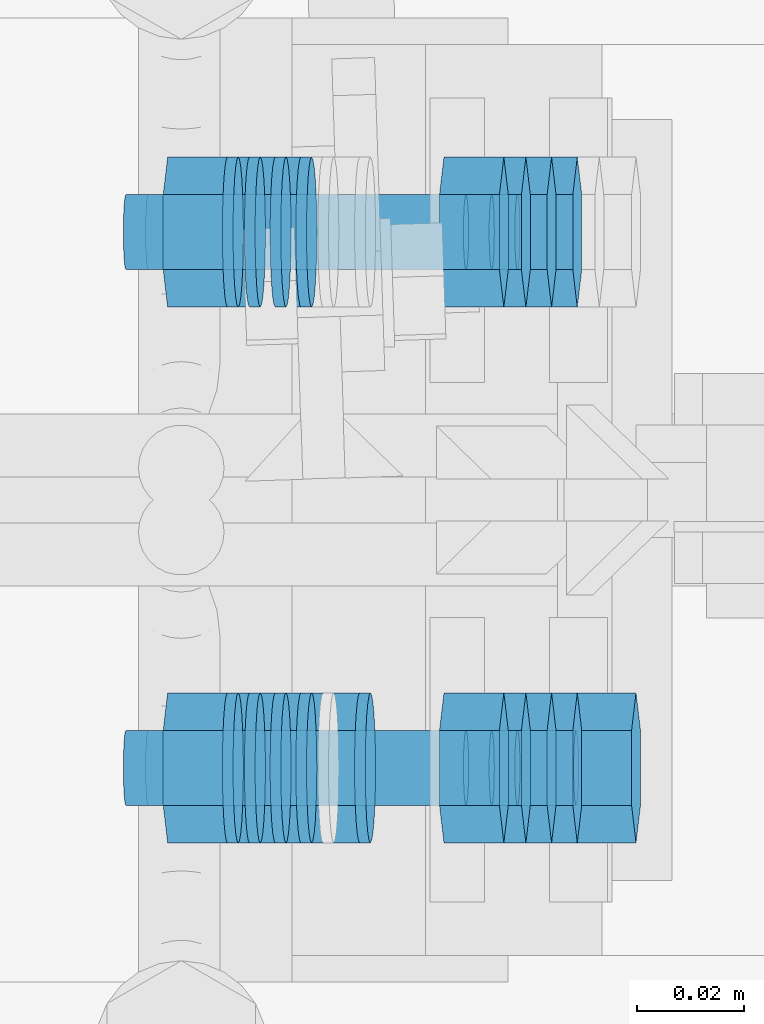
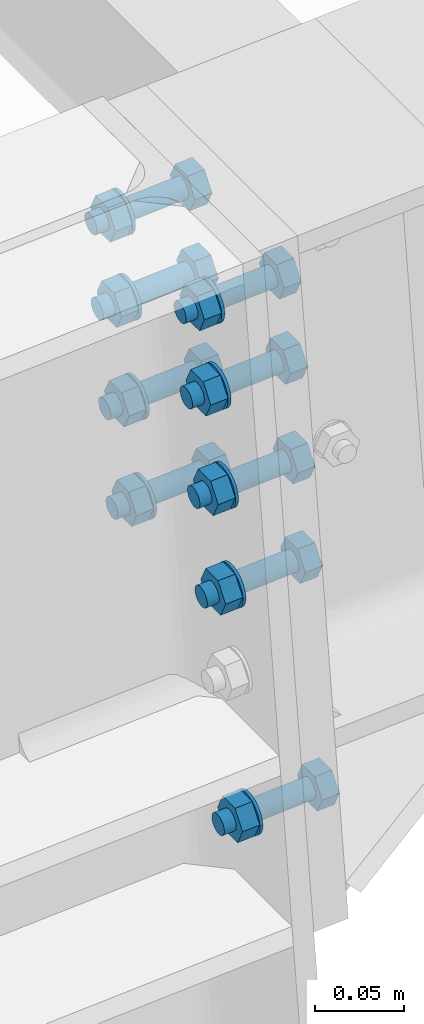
# One storey, part 28 of 72: 36 mechanical fasteners.
"""IFC4 building model written with IfcOpenShell, lengths in metres."""

from ifc_helpers import new_model, si_unit, frame, origin_with_axes, place, context, project, spatial, polyline, outline, extrude, type_object, element, save


model = new_model("IFC4")

# Units and contexts
model_context = context("Model", 3, precision=1e-05, world=origin_with_axes())
ifc_project = project(units=[si_unit("LENGTHUNIT", "METRE"), si_unit("AREAUNIT", "SQUARE_METRE"), si_unit("VOLUMEUNIT", "CUBIC_METRE"), si_unit("MASSUNIT", "GRAM", prefix="KILO"), si_unit("TIMEUNIT", "SECOND"), si_unit("PLANEANGLEUNIT", "RADIAN"), si_unit("SOLIDANGLEUNIT", "STERADIAN"), si_unit("THERMODYNAMICTEMPERATUREUNIT", "DEGREE_CELSIUS")], contexts=[model_context])

# Site, building, storey
placement_1 = place(None, origin_with_axes())
site = spatial("IfcSite", under=ifc_project, at=placement_1, Name="Italia", CompositionType="ELEMENT")
building = spatial("IfcBuilding", under=site, at=placement_1, Name="Pensilina", CompositionType="ELEMENT")
storey = spatial("IfcBuildingStorey", under=building, at=placement_1, Name="Storey 0", CompositionType="ELEMENT", Elevation=0.0)

# Mechanical fasteners
mechanical_fastener_type_1 = type_object("IfcMechanicalFastenerType", Name="Collegamento 0101_0201", PredefinedType="BOLT")
placement_2 = place(placement_1, origin_with_axes())
mechanical_fastener_1_placement = place(placement_2, origin_with_axes())
element("IfcMechanicalFastener", 1, at=mechanical_fastener_1_placement, inside=storey, type_object=mechanical_fastener_type_1, Name="Collegamento 0101_0201", NominalDiameter=0.0139999, context=model_context, shape_type="SweptSolid", body=[
    extrude(outline(polyline([(0.0, 0.0, 0.0), (-0.014, 0.0, 0.0), (-0.021, 0.0121243, 0.0), (-0.014, 0.0242488, 0.0), (0.0, 0.0242488, 0.0), (0.007, 0.0121243, 0.0), (0.0, 0.0, 0.0)])), frame((0.919629, -0.043, 3.5672), z_axis=(0.997649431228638, 0.0, 0.068524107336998), x_axis=(0.0, 1.0, 0.0)), (0.0, 0.0, 1.0), 0.0112),
])
mechanical_fastener_type_2 = type_object("IfcMechanicalFastenerType", Name="Collegamento 0101_0201", PredefinedType="BOLT")
mechanical_fastener_2_placement = place(placement_2, origin_with_axes())
element("IfcMechanicalFastener", 2, at=mechanical_fastener_2_placement, inside=storey, type_object=mechanical_fastener_type_2, Name="Collegamento 0101_0201", NominalDiameter=0.014, context=model_context, shape_type="SweptSolid", body=[
    extrude(outline(polyline([(0.0, 0.0, 0.0), (-0.000238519, -0.00181174, 0.0), (-0.000937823, -0.00349998, 0.0), (-0.00205025, -0.00494981, 0.0), (-0.0035, -0.00606227, 0.0), (-0.00518827, -0.00676155, 0.0), (-0.007, -0.00699997, 0.0), (-0.00881173, -0.00676155, 0.0), (-0.0105, -0.00606227, 0.0), (-0.0119497, -0.00494981, 0.0), (-0.0130622, -0.00349998, 0.0), (-0.0137615, -0.00181174, 0.0), (-0.014, 0.0, 0.0), (-0.0137615, 0.00181174, 0.0), (-0.0130622, 0.00350022, 0.0), (-0.0119497, 0.00494981, 0.0), (-0.0105, 0.00606227, 0.0), (-0.00881173, 0.00676155, 0.0), (-0.007, 0.00699997, 0.0), (-0.00518827, 0.00676155, 0.0), (-0.0035, 0.00606227, 0.0), (-0.00205025, 0.00494981, 0.0), (-0.000937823, 0.00350022, 0.0), (-0.000238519, 0.00181174, 0.0), (0.0, 0.0, 0.0)])), frame((0.859438, -0.043, 3.57522), z_axis=(0.997648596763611, 0.0, 0.068536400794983), x_axis=(0.0, 1.0, 0.0)), (0.0, 0.0, 1.0), 0.0594999),
])
mechanical_fastener_type_3 = type_object("IfcMechanicalFastenerType", Name="Collegamento 0101_0201", PredefinedType="BOLT")
mechanical_fastener_3_placement = place(placement_2, origin_with_axes())
element("IfcMechanicalFastener", 3, at=mechanical_fastener_3_placement, inside=storey, type_object=mechanical_fastener_type_3, Name="Collegamento 0101_0201", NominalDiameter=0.0139999, context=model_context, shape_type="SweptSolid", body=[
    extrude(outline(polyline([(0.0, 0.0, 0.0), (-0.014, 0.0, 0.0), (-0.021, 0.0121243, 0.0), (-0.014, 0.0242486, 0.0), (0.0, 0.0242486, 0.0), (0.007, 0.0121243, 0.0), (0.0, 0.0, 0.0)])), frame((0.868051, -0.043, 3.56365), z_axis=(0.997648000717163, 0.0, 0.068545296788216), x_axis=(0.0, 1.0, 0.0)), (0.0, 0.0, 1.0), 0.0112),
])
mechanical_fastener_type_4 = type_object("IfcMechanicalFastenerType", Name="Collegamento 0101_0201", PredefinedType="BOLT")
mechanical_fastener_4_placement = place(placement_2, origin_with_axes())
element("IfcMechanicalFastener", 4, at=mechanical_fastener_4_placement, inside=storey, type_object=mechanical_fastener_type_4, Name="Collegamento 0101_0201", NominalDiameter=0.028, context=model_context, shape_type="SweptSolid", body=[
    extrude(outline(polyline([(0.0, 0.0, 0.0), (-0.000477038, -0.00362349, 0.0), (-0.00187564, -0.00699997, 0.0), (-0.0041005, -0.00989962, 0.0), (-0.007, -0.0121245, 0.0), (-0.0103765, -0.0135229, 0.0), (-0.014, -0.0139999, 0.0), (-0.0176235, -0.0135229, 0.0), (-0.021, -0.0121245, 0.0), (-0.0238995, -0.00989962, 0.0), (-0.0261244, -0.00699997, 0.0), (-0.027523, -0.00362349, 0.0), (-0.028, 0.0, 0.0), (-0.027523, 0.00362349, 0.0), (-0.0261244, 0.00699997, 0.0), (-0.0238995, 0.00989962, 0.0), (-0.021, 0.0121245, 0.0), (-0.0176235, 0.0135229, 0.0), (-0.014, 0.0139999, 0.0), (-0.0103765, 0.0135229, 0.0), (-0.007, 0.0121245, 0.0), (-0.0041005, 0.00989962, 0.0), (-0.00187564, 0.00699997, 0.0), (-0.000477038, 0.00362349, 0.0), (0.0, 0.0, 0.0)])), frame((0.878394, -0.036, 3.57652), z_axis=(0.997648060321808, 0.0, 0.06854435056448), x_axis=(0.0, 1.0, 0.0)), (0.0, 0.0, 1.0), 0.00200003),
])
mechanical_fastener_type_5 = type_object("IfcMechanicalFastenerType", Name="Collegamento 0101_0201", PredefinedType="BOLT")
mechanical_fastener_5_placement = place(placement_2, origin_with_axes())
element("IfcMechanicalFastener", 5, at=mechanical_fastener_5_placement, inside=storey, type_object=mechanical_fastener_type_5, Name="Collegamento 0101_0201", NominalDiameter=0.0139999, context=model_context, shape_type="SweptSolid", body=[
    extrude(outline(polyline([(0.0, 0.0, 0.0), (-0.014, 0.0, 0.0), (-0.021, 0.0121243, 0.0), (-0.014, 0.0242488, 0.0), (0.0, 0.0242488, 0.0), (0.007, 0.0121243, 0.0), (0.0, 0.0, 0.0)])), frame((0.919629, 0.057, 3.5672), z_axis=(0.997649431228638, 0.0, 0.068524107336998), x_axis=(0.0, 1.0, 0.0)), (0.0, 0.0, 1.0), 0.0112),
])
mechanical_fastener_type_6 = type_object("IfcMechanicalFastenerType", Name="Collegamento 0101_0201", PredefinedType="BOLT")
mechanical_fastener_6_placement = place(placement_2, origin_with_axes())
element("IfcMechanicalFastener", 6, at=mechanical_fastener_6_placement, inside=storey, type_object=mechanical_fastener_type_6, Name="Collegamento 0101_0201", NominalDiameter=0.014, context=model_context, shape_type="SweptSolid", body=[
    extrude(outline(polyline([(0.0, 0.0, 0.0), (-0.000238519, -0.00181174, 0.0), (-0.000937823, -0.00349998, 0.0), (-0.00205025, -0.00494981, 0.0), (-0.0035, -0.00606227, 0.0), (-0.00518827, -0.00676155, 0.0), (-0.007, -0.00699997, 0.0), (-0.00881173, -0.00676155, 0.0), (-0.0105, -0.00606227, 0.0), (-0.0119497, -0.00494981, 0.0), (-0.0130622, -0.00349998, 0.0), (-0.0137615, -0.00181174, 0.0), (-0.014, 0.0, 0.0), (-0.0137615, 0.00181174, 0.0), (-0.0130622, 0.00350022, 0.0), (-0.0119497, 0.00494981, 0.0), (-0.0105, 0.00606227, 0.0), (-0.00881173, 0.00676155, 0.0), (-0.007, 0.00699997, 0.0), (-0.00518827, 0.00676155, 0.0), (-0.0035, 0.00606227, 0.0), (-0.00205025, 0.00494981, 0.0), (-0.000937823, 0.00350022, 0.0), (-0.000238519, 0.00181174, 0.0), (0.0, 0.0, 0.0)])), frame((0.859438, 0.057, 3.57522), z_axis=(0.997648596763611, 0.0, 0.068536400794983), x_axis=(0.0, 1.0, 0.0)), (0.0, 0.0, 1.0), 0.0594999),
])
mechanical_fastener_type_7 = type_object("IfcMechanicalFastenerType", Name="Collegamento 0101_0201", PredefinedType="BOLT")
mechanical_fastener_7_placement = place(placement_2, origin_with_axes())
element("IfcMechanicalFastener", 7, at=mechanical_fastener_7_placement, inside=storey, type_object=mechanical_fastener_type_7, Name="Collegamento 0101_0201", NominalDiameter=0.0139999, context=model_context, shape_type="SweptSolid", body=[
    extrude(outline(polyline([(0.0, 0.0, 0.0), (-0.014, 0.0, 0.0), (-0.021, 0.0121243, 0.0), (-0.014, 0.0242486, 0.0), (0.0, 0.0242486, 0.0), (0.007, 0.0121243, 0.0), (0.0, 0.0, 0.0)])), frame((0.868051, 0.057, 3.56365), z_axis=(0.997648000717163, 0.0, 0.068545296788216), x_axis=(0.0, 1.0, 0.0)), (0.0, 0.0, 1.0), 0.0112),
])
mechanical_fastener_type_8 = type_object("IfcMechanicalFastenerType", Name="Collegamento 0101_0201", PredefinedType="BOLT")
mechanical_fastener_8_placement = place(placement_2, origin_with_axes())
element("IfcMechanicalFastener", 8, at=mechanical_fastener_8_placement, inside=storey, type_object=mechanical_fastener_type_8, Name="Collegamento 0101_0201", NominalDiameter=0.028, context=model_context, shape_type="SweptSolid", body=[
    extrude(outline(polyline([(0.0, 0.0, 0.0), (-0.000477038, -0.00362349, 0.0), (-0.00187564, -0.00699997, 0.0), (-0.0041005, -0.00989962, 0.0), (-0.007, -0.0121245, 0.0), (-0.0103765, -0.0135229, 0.0), (-0.014, -0.0139999, 0.0), (-0.0176235, -0.0135229, 0.0), (-0.021, -0.0121245, 0.0), (-0.0238995, -0.00989962, 0.0), (-0.0261244, -0.00699997, 0.0), (-0.027523, -0.00362349, 0.0), (-0.028, 0.0, 0.0), (-0.027523, 0.00362349, 0.0), (-0.0261244, 0.00699997, 0.0), (-0.0238995, 0.00989962, 0.0), (-0.021, 0.0121245, 0.0), (-0.0176235, 0.0135229, 0.0), (-0.014, 0.0139999, 0.0), (-0.0103765, 0.0135229, 0.0), (-0.007, 0.0121245, 0.0), (-0.0041005, 0.00989962, 0.0), (-0.00187564, 0.00699997, 0.0), (-0.000477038, 0.00362349, 0.0), (0.0, 0.0, 0.0)])), frame((0.878394, 0.064, 3.57652), z_axis=(0.997648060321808, 0.0, 0.06854435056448), x_axis=(0.0, 1.0, 0.0)), (0.0, 0.0, 1.0), 0.00200003),
])
mechanical_fastener_type_9 = type_object("IfcMechanicalFastenerType", Name="Collegamento 0101_0201", PredefinedType="BOLT")
mechanical_fastener_9_placement = place(placement_2, origin_with_axes())
element("IfcMechanicalFastener", 9, at=mechanical_fastener_9_placement, inside=storey, type_object=mechanical_fastener_type_9, Name="Collegamento 0101_0201", NominalDiameter=0.014, context=model_context, shape_type="SweptSolid", body=[
    extrude(outline(polyline([(0.0, 0.0, 0.0), (-0.014, 0.0, 0.0), (-0.021, 0.0121243, 0.0), (-0.014, 0.0242488, 0.0), (0.0, 0.0242488, 0.0), (0.007, 0.0121243, 0.0), (0.0, 0.0, 0.0)])), frame((0.914832, -0.043, 3.63703), z_axis=(0.997648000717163, 0.0, 0.068545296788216), x_axis=(0.0, 1.0, 0.0)), (0.0, 0.0, 1.0), 0.0112),
])
mechanical_fastener_type_10 = type_object("IfcMechanicalFastenerType", Name="Collegamento 0101_0201", PredefinedType="BOLT")
mechanical_fastener_10_placement = place(placement_2, origin_with_axes())
element("IfcMechanicalFastener", 10, at=mechanical_fastener_10_placement, inside=storey, type_object=mechanical_fastener_type_10, Name="Collegamento 0101_0201", NominalDiameter=0.014, context=model_context, shape_type="SweptSolid", body=[
    extrude(outline(polyline([(0.0, 0.0, 0.0), (-0.000238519, -0.00181174, 0.0), (-0.000937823, -0.00350022, 0.0), (-0.00205025, -0.00494981, 0.0), (-0.0035, -0.00606227, 0.0), (-0.00518827, -0.00676155, 0.0), (-0.007, -0.00699997, 0.0), (-0.00881173, -0.00676155, 0.0), (-0.0105, -0.00606227, 0.0), (-0.0119497, -0.00494981, 0.0), (-0.0130622, -0.00350022, 0.0), (-0.0137615, -0.00181174, 0.0), (-0.014, 0.0, 0.0), (-0.0137615, 0.00181174, 0.0), (-0.0130622, 0.00349998, 0.0), (-0.0119497, 0.00494957, 0.0), (-0.0105, 0.00606203, 0.0), (-0.00881173, 0.00676131, 0.0), (-0.007, 0.00699997, 0.0), (-0.00518827, 0.00676131, 0.0), (-0.0035, 0.00606203, 0.0), (-0.00205025, 0.00494957, 0.0), (-0.000937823, 0.00349998, 0.0), (-0.000238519, 0.00181174, 0.0), (0.0, 0.0, 0.0)])), frame((0.85464, -0.043, 3.64505), z_axis=(0.997648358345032, 0.0, 0.068540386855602), x_axis=(0.0, 1.0, 0.0)), (0.0, 0.0, 1.0), 0.0595),
])
mechanical_fastener_type_11 = type_object("IfcMechanicalFastenerType", Name="Collegamento 0101_0201", PredefinedType="BOLT")
mechanical_fastener_11_placement = place(placement_2, origin_with_axes())
element("IfcMechanicalFastener", 11, at=mechanical_fastener_11_placement, inside=storey, type_object=mechanical_fastener_type_11, Name="Collegamento 0101_0201", NominalDiameter=0.0139999, context=model_context, shape_type="SweptSolid", body=[
    extrude(outline(polyline([(0.0, 0.0, 0.0), (-0.014, 0.0, 0.0), (-0.021, 0.0121243, 0.0), (-0.014, 0.0242486, 0.0), (0.0, 0.0242486, 0.0), (0.007, 0.0121243, 0.0), (0.0, 0.0, 0.0)])), frame((0.863253, -0.043, 3.63349), z_axis=(0.997649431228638, 0.0, 0.068524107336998), x_axis=(0.0, 1.0, 0.0)), (0.0, 0.0, 1.0), 0.0112),
])
mechanical_fastener_type_12 = type_object("IfcMechanicalFastenerType", Name="Collegamento 0101_0201", PredefinedType="BOLT")
mechanical_fastener_12_placement = place(placement_2, origin_with_axes())
element("IfcMechanicalFastener", 12, at=mechanical_fastener_12_placement, inside=storey, type_object=mechanical_fastener_type_12, Name="Collegamento 0101_0201", NominalDiameter=0.028, context=model_context, shape_type="SweptSolid", body=[
    extrude(outline(polyline([(0.0, 0.0, 0.0), (-0.000477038, -0.00362349, 0.0), (-0.00187564, -0.00699997, 0.0), (-0.0041005, -0.00989938, 0.0), (-0.007, -0.0121243, 0.0), (-0.0103765, -0.0135229, 0.0), (-0.014, -0.0139999, 0.0), (-0.0176235, -0.0135229, 0.0), (-0.021, -0.0121243, 0.0), (-0.0238995, -0.00989938, 0.0), (-0.0261244, -0.00699997, 0.0), (-0.027523, -0.00362349, 0.0), (-0.028, 0.0, 0.0), (-0.027523, 0.00362349, 0.0), (-0.0261244, 0.00699997, 0.0), (-0.0238995, 0.00989962, 0.0), (-0.021, 0.0121245, 0.0), (-0.0176235, 0.0135231, 0.0), (-0.014, 0.0139999, 0.0), (-0.0103765, 0.0135231, 0.0), (-0.007, 0.0121245, 0.0), (-0.0041005, 0.00989962, 0.0), (-0.00187564, 0.00699997, 0.0), (-0.000477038, 0.00362349, 0.0), (0.0, 0.0, 0.0)])), frame((0.873596, -0.036, 3.64635), z_axis=(0.997647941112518, 0.0, 0.068546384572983), x_axis=(0.0, 1.0, 0.0)), (0.0, 0.0, 1.0), 0.00199997),
])
mechanical_fastener_type_13 = type_object("IfcMechanicalFastenerType", Name="Collegamento 0101_0201", PredefinedType="BOLT")
mechanical_fastener_13_placement = place(placement_2, origin_with_axes())
element("IfcMechanicalFastener", 13, at=mechanical_fastener_13_placement, inside=storey, type_object=mechanical_fastener_type_13, Name="Collegamento 0101_0201", NominalDiameter=0.014, context=model_context, shape_type="SweptSolid", body=[
    extrude(outline(polyline([(0.0, 0.0, 0.0), (-0.014, 0.0, 0.0), (-0.021, 0.0121243, 0.0), (-0.014, 0.0242488, 0.0), (0.0, 0.0242488, 0.0), (0.007, 0.0121243, 0.0), (0.0, 0.0, 0.0)])), frame((0.914832, 0.057, 3.63703), z_axis=(0.997648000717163, 0.0, 0.068545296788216), x_axis=(0.0, 1.0, 0.0)), (0.0, 0.0, 1.0), 0.0112),
])
mechanical_fastener_type_14 = type_object("IfcMechanicalFastenerType", Name="Collegamento 0101_0201", PredefinedType="BOLT")
mechanical_fastener_14_placement = place(placement_2, origin_with_axes())
element("IfcMechanicalFastener", 14, at=mechanical_fastener_14_placement, inside=storey, type_object=mechanical_fastener_type_14, Name="Collegamento 0101_0201", NominalDiameter=0.014, context=model_context, shape_type="SweptSolid", body=[
    extrude(outline(polyline([(0.0, 0.0, 0.0), (-0.000238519, -0.00181174, 0.0), (-0.000937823, -0.00350022, 0.0), (-0.00205025, -0.00494981, 0.0), (-0.0035, -0.00606227, 0.0), (-0.00518827, -0.00676155, 0.0), (-0.007, -0.00699997, 0.0), (-0.00881173, -0.00676155, 0.0), (-0.0105, -0.00606227, 0.0), (-0.0119497, -0.00494981, 0.0), (-0.0130622, -0.00350022, 0.0), (-0.0137615, -0.00181174, 0.0), (-0.014, 0.0, 0.0), (-0.0137615, 0.00181174, 0.0), (-0.0130622, 0.00349998, 0.0), (-0.0119497, 0.00494957, 0.0), (-0.0105, 0.00606203, 0.0), (-0.00881173, 0.00676131, 0.0), (-0.007, 0.00699997, 0.0), (-0.00518827, 0.00676131, 0.0), (-0.0035, 0.00606203, 0.0), (-0.00205025, 0.00494957, 0.0), (-0.000937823, 0.00349998, 0.0), (-0.000238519, 0.00181174, 0.0), (0.0, 0.0, 0.0)])), frame((0.85464, 0.057, 3.64505), z_axis=(0.997648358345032, 0.0, 0.068540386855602), x_axis=(0.0, 1.0, 0.0)), (0.0, 0.0, 1.0), 0.0595),
])
mechanical_fastener_type_15 = type_object("IfcMechanicalFastenerType", Name="Collegamento 0101_0201", PredefinedType="BOLT")
mechanical_fastener_15_placement = place(placement_2, origin_with_axes())
element("IfcMechanicalFastener", 15, at=mechanical_fastener_15_placement, inside=storey, type_object=mechanical_fastener_type_15, Name="Collegamento 0101_0201", NominalDiameter=0.0139999, context=model_context, shape_type="SweptSolid", body=[
    extrude(outline(polyline([(0.0, 0.0, 0.0), (-0.014, 0.0, 0.0), (-0.021, 0.0121243, 0.0), (-0.014, 0.0242486, 0.0), (0.0, 0.0242486, 0.0), (0.007, 0.0121243, 0.0), (0.0, 0.0, 0.0)])), frame((0.863253, 0.057, 3.63349), z_axis=(0.997649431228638, 0.0, 0.068524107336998), x_axis=(0.0, 1.0, 0.0)), (0.0, 0.0, 1.0), 0.0112),
])
mechanical_fastener_type_16 = type_object("IfcMechanicalFastenerType", Name="Collegamento 0101_0201", PredefinedType="BOLT")
mechanical_fastener_16_placement = place(placement_2, origin_with_axes())
element("IfcMechanicalFastener", 16, at=mechanical_fastener_16_placement, inside=storey, type_object=mechanical_fastener_type_16, Name="Collegamento 0101_0201", NominalDiameter=0.028, context=model_context, shape_type="SweptSolid", body=[
    extrude(outline(polyline([(0.0, 0.0, 0.0), (-0.000477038, -0.00362349, 0.0), (-0.00187564, -0.00699997, 0.0), (-0.0041005, -0.00989938, 0.0), (-0.007, -0.0121243, 0.0), (-0.0103765, -0.0135229, 0.0), (-0.014, -0.0139999, 0.0), (-0.0176235, -0.0135229, 0.0), (-0.021, -0.0121243, 0.0), (-0.0238995, -0.00989938, 0.0), (-0.0261244, -0.00699997, 0.0), (-0.027523, -0.00362349, 0.0), (-0.028, 0.0, 0.0), (-0.027523, 0.00362349, 0.0), (-0.0261244, 0.00699997, 0.0), (-0.0238995, 0.00989962, 0.0), (-0.021, 0.0121245, 0.0), (-0.0176235, 0.0135231, 0.0), (-0.014, 0.0139999, 0.0), (-0.0103765, 0.0135231, 0.0), (-0.007, 0.0121245, 0.0), (-0.0041005, 0.00989962, 0.0), (-0.00187564, 0.00699997, 0.0), (-0.000477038, 0.00362349, 0.0), (0.0, 0.0, 0.0)])), frame((0.873596, 0.064, 3.64635), z_axis=(0.997647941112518, 0.0, 0.068546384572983), x_axis=(0.0, 1.0, 0.0)), (0.0, 0.0, 1.0), 0.00199997),
])
mechanical_fastener_type_17 = type_object("IfcMechanicalFastenerType", Name="Collegamento 0101_0201", PredefinedType="BOLT")
mechanical_fastener_17_placement = place(placement_2, origin_with_axes())
element("IfcMechanicalFastener", 17, at=mechanical_fastener_17_placement, inside=storey, type_object=mechanical_fastener_type_17, Name="Collegamento 0101_0201", NominalDiameter=0.0139999, context=model_context, shape_type="SweptSolid", body=[
    extrude(outline(polyline([(0.0, 0.0, 0.0), (-0.014, 0.0, 0.0), (-0.021, 0.0121245, 0.0), (-0.014, 0.0242486, 0.0), (0.0, 0.0242486, 0.0), (0.007, 0.0121245, 0.0), (0.0, 0.0, 0.0)])), frame((0.910034, -0.043, 3.70687), z_axis=(0.997648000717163, 0.0, 0.068545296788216), x_axis=(0.0, 1.0, 0.0)), (0.0, 0.0, 1.0), 0.0112),
])
mechanical_fastener_type_18 = type_object("IfcMechanicalFastenerType", Name="Collegamento 0101_0201", PredefinedType="BOLT")
mechanical_fastener_18_placement = place(placement_2, origin_with_axes())
element("IfcMechanicalFastener", 18, at=mechanical_fastener_18_placement, inside=storey, type_object=mechanical_fastener_type_18, Name="Collegamento 0101_0201", NominalDiameter=0.014, context=model_context, shape_type="SweptSolid", body=[
    extrude(outline(polyline([(0.0, 0.0, 0.0), (-0.000238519, -0.00181174, 0.0), (-0.000937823, -0.00350022, 0.0), (-0.00205025, -0.00494981, 0.0), (-0.0035, -0.00606227, 0.0), (-0.00518827, -0.00676155, 0.0), (-0.007, -0.00699997, 0.0), (-0.00881173, -0.00676155, 0.0), (-0.0105, -0.00606227, 0.0), (-0.0119497, -0.00494981, 0.0), (-0.0130622, -0.00350022, 0.0), (-0.0137615, -0.00181174, 0.0), (-0.014, 0.0, 0.0), (-0.0137615, 0.00181174, 0.0), (-0.0130622, 0.00349998, 0.0), (-0.0119497, 0.00494981, 0.0), (-0.0105, 0.00606227, 0.0), (-0.00881173, 0.00676131, 0.0), (-0.007, 0.00699997, 0.0), (-0.00518827, 0.00676131, 0.0), (-0.0035, 0.00606227, 0.0), (-0.00205025, 0.00494981, 0.0), (-0.000937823, 0.00349998, 0.0), (-0.000238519, 0.00181174, 0.0), (0.0, 0.0, 0.0)])), frame((0.849843, -0.043, 3.71489), z_axis=(0.997648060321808, 0.0, 0.068544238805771), x_axis=(0.0, 1.0, 0.0)), (0.0, 0.0, 1.0), 0.0595001),
])
mechanical_fastener_type_19 = type_object("IfcMechanicalFastenerType", Name="Collegamento 0101_0201", PredefinedType="BOLT")
mechanical_fastener_19_placement = place(placement_2, origin_with_axes())
element("IfcMechanicalFastener", 19, at=mechanical_fastener_19_placement, inside=storey, type_object=mechanical_fastener_type_19, Name="Collegamento 0101_0201", NominalDiameter=0.014, context=model_context, shape_type="SweptSolid", body=[
    extrude(outline(polyline([(0.0, 0.0, 0.0), (-0.014, 0.0, 0.0), (-0.021, 0.0121245, 0.0), (-0.014, 0.0242488, 0.0), (0.0, 0.0242488, 0.0), (0.007, 0.0121245, 0.0), (0.0, 0.0, 0.0)])), frame((0.858455, -0.043, 3.70333), z_axis=(0.997648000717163, 0.0, 0.068545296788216), x_axis=(0.0, 1.0, 0.0)), (0.0, 0.0, 1.0), 0.0112),
])
mechanical_fastener_type_20 = type_object("IfcMechanicalFastenerType", Name="Collegamento 0101_0201", PredefinedType="BOLT")
mechanical_fastener_20_placement = place(placement_2, origin_with_axes())
element("IfcMechanicalFastener", 20, at=mechanical_fastener_20_placement, inside=storey, type_object=mechanical_fastener_type_20, Name="Collegamento 0101_0201", NominalDiameter=0.028, context=model_context, shape_type="SweptSolid", body=[
    extrude(outline(polyline([(0.0, 0.0, 0.0), (-0.000477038, -0.00362349, 0.0), (-0.00187564, -0.00699997, 0.0), (-0.0041005, -0.00989962, 0.0), (-0.007, -0.0121245, 0.0), (-0.0103765, -0.0135229, 0.0), (-0.014, -0.0139999, 0.0), (-0.0176235, -0.0135229, 0.0), (-0.021, -0.0121245, 0.0), (-0.0238995, -0.00989962, 0.0), (-0.0261244, -0.00699997, 0.0), (-0.027523, -0.00362349, 0.0), (-0.028, 0.0, 0.0), (-0.027523, 0.00362349, 0.0), (-0.0261244, 0.00699997, 0.0), (-0.0238995, 0.00989962, 0.0), (-0.021, 0.0121245, 0.0), (-0.0176235, 0.0135229, 0.0), (-0.014, 0.0139999, 0.0), (-0.0103765, 0.0135229, 0.0), (-0.007, 0.0121245, 0.0), (-0.0041005, 0.00989962, 0.0), (-0.00187564, 0.00699997, 0.0), (-0.000477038, 0.00362349, 0.0), (0.0, 0.0, 0.0)])), frame((0.868798, -0.036, 3.71619), z_axis=(0.997648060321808, 0.0, 0.06854435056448), x_axis=(0.0, 1.0, 0.0)), (0.0, 0.0, 1.0), 0.00200003),
])
mechanical_fastener_type_21 = type_object("IfcMechanicalFastenerType", Name="Collegamento 0101_0201", PredefinedType="BOLT")
mechanical_fastener_21_placement = place(placement_2, origin_with_axes())
element("IfcMechanicalFastener", 21, at=mechanical_fastener_21_placement, inside=storey, type_object=mechanical_fastener_type_21, Name="Collegamento 0101_0201", NominalDiameter=0.0139999, context=model_context, shape_type="SweptSolid", body=[
    extrude(outline(polyline([(0.0, 0.0, 0.0), (-0.014, 0.0, 0.0), (-0.021, 0.0121245, 0.0), (-0.014, 0.0242486, 0.0), (0.0, 0.0242486, 0.0), (0.007, 0.0121245, 0.0), (0.0, 0.0, 0.0)])), frame((0.910034, 0.057, 3.70687), z_axis=(0.997648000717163, 0.0, 0.068545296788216), x_axis=(0.0, 1.0, 0.0)), (0.0, 0.0, 1.0), 0.0112),
])
mechanical_fastener_type_22 = type_object("IfcMechanicalFastenerType", Name="Collegamento 0101_0201", PredefinedType="BOLT")
mechanical_fastener_22_placement = place(placement_2, origin_with_axes())
element("IfcMechanicalFastener", 22, at=mechanical_fastener_22_placement, inside=storey, type_object=mechanical_fastener_type_22, Name="Collegamento 0101_0201", NominalDiameter=0.014, context=model_context, shape_type="SweptSolid", body=[
    extrude(outline(polyline([(0.0, 0.0, 0.0), (-0.000238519, -0.00181174, 0.0), (-0.000937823, -0.00350022, 0.0), (-0.00205025, -0.00494981, 0.0), (-0.0035, -0.00606227, 0.0), (-0.00518827, -0.00676155, 0.0), (-0.007, -0.00699997, 0.0), (-0.00881173, -0.00676155, 0.0), (-0.0105, -0.00606227, 0.0), (-0.0119497, -0.00494981, 0.0), (-0.0130622, -0.00350022, 0.0), (-0.0137615, -0.00181174, 0.0), (-0.014, 0.0, 0.0), (-0.0137615, 0.00181174, 0.0), (-0.0130622, 0.00349998, 0.0), (-0.0119497, 0.00494981, 0.0), (-0.0105, 0.00606227, 0.0), (-0.00881173, 0.00676131, 0.0), (-0.007, 0.00699997, 0.0), (-0.00518827, 0.00676131, 0.0), (-0.0035, 0.00606227, 0.0), (-0.00205025, 0.00494981, 0.0), (-0.000937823, 0.00349998, 0.0), (-0.000238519, 0.00181174, 0.0), (0.0, 0.0, 0.0)])), frame((0.849843, 0.057, 3.71489), z_axis=(0.997648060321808, 0.0, 0.068544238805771), x_axis=(0.0, 1.0, 0.0)), (0.0, 0.0, 1.0), 0.0595001),
])
mechanical_fastener_type_23 = type_object("IfcMechanicalFastenerType", Name="Collegamento 0101_0201", PredefinedType="BOLT")
mechanical_fastener_23_placement = place(placement_2, origin_with_axes())
element("IfcMechanicalFastener", 23, at=mechanical_fastener_23_placement, inside=storey, type_object=mechanical_fastener_type_23, Name="Collegamento 0101_0201", NominalDiameter=0.014, context=model_context, shape_type="SweptSolid", body=[
    extrude(outline(polyline([(0.0, 0.0, 0.0), (-0.014, 0.0, 0.0), (-0.021, 0.0121245, 0.0), (-0.014, 0.0242488, 0.0), (0.0, 0.0242488, 0.0), (0.007, 0.0121245, 0.0), (0.0, 0.0, 0.0)])), frame((0.858455, 0.057, 3.70333), z_axis=(0.997648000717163, 0.0, 0.068545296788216), x_axis=(0.0, 1.0, 0.0)), (0.0, 0.0, 1.0), 0.0112),
])
mechanical_fastener_type_24 = type_object("IfcMechanicalFastenerType", Name="Collegamento 0101_0201", PredefinedType="BOLT")
mechanical_fastener_24_placement = place(placement_2, origin_with_axes())
element("IfcMechanicalFastener", 24, at=mechanical_fastener_24_placement, inside=storey, type_object=mechanical_fastener_type_24, Name="Collegamento 0101_0201", NominalDiameter=0.028, context=model_context, shape_type="SweptSolid", body=[
    extrude(outline(polyline([(0.0, 0.0, 0.0), (-0.000477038, -0.00362349, 0.0), (-0.00187564, -0.00699997, 0.0), (-0.0041005, -0.00989962, 0.0), (-0.007, -0.0121245, 0.0), (-0.0103765, -0.0135229, 0.0), (-0.014, -0.0139999, 0.0), (-0.0176235, -0.0135229, 0.0), (-0.021, -0.0121245, 0.0), (-0.0238995, -0.00989962, 0.0), (-0.0261244, -0.00699997, 0.0), (-0.027523, -0.00362349, 0.0), (-0.028, 0.0, 0.0), (-0.027523, 0.00362349, 0.0), (-0.0261244, 0.00699997, 0.0), (-0.0238995, 0.00989962, 0.0), (-0.021, 0.0121245, 0.0), (-0.0176235, 0.0135229, 0.0), (-0.014, 0.0139999, 0.0), (-0.0103765, 0.0135229, 0.0), (-0.007, 0.0121245, 0.0), (-0.0041005, 0.00989962, 0.0), (-0.00187564, 0.00699997, 0.0), (-0.000477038, 0.00362349, 0.0), (0.0, 0.0, 0.0)])), frame((0.868798, 0.064, 3.71619), z_axis=(0.997648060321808, 0.0, 0.06854435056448), x_axis=(0.0, 1.0, 0.0)), (0.0, 0.0, 1.0), 0.00200003),
])
mechanical_fastener_type_25 = type_object("IfcMechanicalFastenerType", Name="Collegamento 0101_0201", PredefinedType="BOLT")
mechanical_fastener_25_placement = place(placement_2, origin_with_axes())
element("IfcMechanicalFastener", 25, at=mechanical_fastener_25_placement, inside=storey, type_object=mechanical_fastener_type_25, Name="Collegamento 0101_0201", NominalDiameter=0.0139999, context=model_context, shape_type="SweptSolid", body=[
    extrude(outline(polyline([(0.0, 0.0, 0.0), (-0.014, 0.0, 0.0), (-0.021, 0.0121243, 0.0), (-0.014, 0.0242486, 0.0), (0.0, 0.0242486, 0.0), (0.007, 0.0121243, 0.0), (0.0, 0.0, 0.0)])), frame((0.905921, -0.043, 3.76673), z_axis=(0.997649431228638, 0.0, 0.068524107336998), x_axis=(0.0, 1.0, 0.0)), (0.0, 0.0, 1.0), 0.0112),
])
mechanical_fastener_type_26 = type_object("IfcMechanicalFastenerType", Name="Collegamento 0101_0201", PredefinedType="BOLT")
mechanical_fastener_26_placement = place(placement_2, origin_with_axes())
element("IfcMechanicalFastener", 26, at=mechanical_fastener_26_placement, inside=storey, type_object=mechanical_fastener_type_26, Name="Collegamento 0101_0201", NominalDiameter=0.014, context=model_context, shape_type="SweptSolid", body=[
    extrude(outline(polyline([(0.0, 0.0, 0.0), (-0.000238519, -0.00181174, 0.0), (-0.000937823, -0.00350022, 0.0), (-0.00205025, -0.00494981, 0.0), (-0.0035, -0.00606227, 0.0), (-0.00518827, -0.00676155, 0.0), (-0.007, -0.00699997, 0.0), (-0.00881173, -0.00676155, 0.0), (-0.0105, -0.00606227, 0.0), (-0.0119497, -0.00494981, 0.0), (-0.0130622, -0.00350022, 0.0), (-0.0137615, -0.00181174, 0.0), (-0.014, 0.0, 0.0), (-0.0137615, 0.00181174, 0.0), (-0.0130622, 0.00349998, 0.0), (-0.0119497, 0.00494981, 0.0), (-0.0105, 0.00606227, 0.0), (-0.00881173, 0.00676155, 0.0), (-0.007, 0.00699997, 0.0), (-0.00518827, 0.00676155, 0.0), (-0.0035, 0.00606227, 0.0), (-0.00205025, 0.00494981, 0.0), (-0.000937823, 0.00349998, 0.0), (-0.000238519, 0.00181174, 0.0), (0.0, 0.0, 0.0)])), frame((0.84573, -0.043, 3.77475), z_axis=(0.997648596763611, 0.0, 0.068536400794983), x_axis=(0.0, 1.0, 0.0)), (0.0, 0.0, 1.0), 0.0594999),
])
mechanical_fastener_type_27 = type_object("IfcMechanicalFastenerType", Name="Collegamento 0101_0201", PredefinedType="BOLT")
mechanical_fastener_27_placement = place(placement_2, origin_with_axes())
element("IfcMechanicalFastener", 27, at=mechanical_fastener_27_placement, inside=storey, type_object=mechanical_fastener_type_27, Name="Collegamento 0101_0201", NominalDiameter=0.0139999, context=model_context, shape_type="SweptSolid", body=[
    extrude(outline(polyline([(0.0, 0.0, 0.0), (-0.014, 0.0, 0.0), (-0.021, 0.0121241, 0.0), (-0.014, 0.0242486, 0.0), (0.0, 0.0242486, 0.0), (0.007, 0.0121241, 0.0), (0.0, 0.0, 0.0)])), frame((0.854343, -0.043, 3.76318), z_axis=(0.997648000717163, 0.0, 0.068545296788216), x_axis=(0.0, 1.0, 0.0)), (0.0, 0.0, 1.0), 0.0112),
])
mechanical_fastener_type_28 = type_object("IfcMechanicalFastenerType", Name="Collegamento 0101_0201", PredefinedType="BOLT")
mechanical_fastener_28_placement = place(placement_2, origin_with_axes())
element("IfcMechanicalFastener", 28, at=mechanical_fastener_28_placement, inside=storey, type_object=mechanical_fastener_type_28, Name="Collegamento 0101_0201", NominalDiameter=0.028, context=model_context, shape_type="SweptSolid", body=[
    extrude(outline(polyline([(0.0, 0.0, 0.0), (-0.000477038, -0.00362325, 0.0), (-0.00187564, -0.00699997, 0.0), (-0.0041005, -0.00989938, 0.0), (-0.007, -0.0121243, 0.0), (-0.0103765, -0.0135229, 0.0), (-0.014, -0.0139999, 0.0), (-0.0176235, -0.0135229, 0.0), (-0.021, -0.0121243, 0.0), (-0.0238995, -0.00989938, 0.0), (-0.0261244, -0.00699997, 0.0), (-0.027523, -0.00362325, 0.0), (-0.028, 0.0, 0.0), (-0.027523, 0.00362349, 0.0), (-0.0261244, 0.00700021, 0.0), (-0.0238995, 0.00989962, 0.0), (-0.021, 0.0121245, 0.0), (-0.0176235, 0.0135231, 0.0), (-0.014, 0.0140002, 0.0), (-0.0103765, 0.0135231, 0.0), (-0.007, 0.0121245, 0.0), (-0.0041005, 0.00989962, 0.0), (-0.00187564, 0.00700021, 0.0), (-0.000477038, 0.00362349, 0.0), (0.0, 0.0, 0.0)])), frame((0.864685, -0.036, 3.77605), z_axis=(0.997647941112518, 0.0, 0.068546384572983), x_axis=(0.0, 1.0, 0.0)), (0.0, 0.0, 1.0), 0.00199997),
])
mechanical_fastener_type_29 = type_object("IfcMechanicalFastenerType", Name="Collegamento 0101_0201", PredefinedType="BOLT")
mechanical_fastener_29_placement = place(placement_2, origin_with_axes())
element("IfcMechanicalFastener", 29, at=mechanical_fastener_29_placement, inside=storey, type_object=mechanical_fastener_type_29, Name="Collegamento 0101_0201", NominalDiameter=0.0139999, context=model_context, shape_type="SweptSolid", body=[
    extrude(outline(polyline([(0.0, 0.0, 0.0), (-0.014, 0.0, 0.0), (-0.021, 0.0121243, 0.0), (-0.014, 0.0242486, 0.0), (0.0, 0.0242486, 0.0), (0.007, 0.0121243, 0.0), (0.0, 0.0, 0.0)])), frame((0.905921, 0.057, 3.76673), z_axis=(0.997649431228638, 0.0, 0.068524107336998), x_axis=(0.0, 1.0, 0.0)), (0.0, 0.0, 1.0), 0.0112),
])
mechanical_fastener_type_30 = type_object("IfcMechanicalFastenerType", Name="Collegamento 0101_0201", PredefinedType="BOLT")
mechanical_fastener_30_placement = place(placement_2, origin_with_axes())
element("IfcMechanicalFastener", 30, at=mechanical_fastener_30_placement, inside=storey, type_object=mechanical_fastener_type_30, Name="Collegamento 0101_0201", NominalDiameter=0.014, context=model_context, shape_type="SweptSolid", body=[
    extrude(outline(polyline([(0.0, 0.0, 0.0), (-0.000238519, -0.00181174, 0.0), (-0.000937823, -0.00350022, 0.0), (-0.00205025, -0.00494981, 0.0), (-0.0035, -0.00606227, 0.0), (-0.00518827, -0.00676155, 0.0), (-0.007, -0.00699997, 0.0), (-0.00881173, -0.00676155, 0.0), (-0.0105, -0.00606227, 0.0), (-0.0119497, -0.00494981, 0.0), (-0.0130622, -0.00350022, 0.0), (-0.0137615, -0.00181174, 0.0), (-0.014, 0.0, 0.0), (-0.0137615, 0.00181174, 0.0), (-0.0130622, 0.00349998, 0.0), (-0.0119497, 0.00494981, 0.0), (-0.0105, 0.00606227, 0.0), (-0.00881173, 0.00676155, 0.0), (-0.007, 0.00699997, 0.0), (-0.00518827, 0.00676155, 0.0), (-0.0035, 0.00606227, 0.0), (-0.00205025, 0.00494981, 0.0), (-0.000937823, 0.00349998, 0.0), (-0.000238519, 0.00181174, 0.0), (0.0, 0.0, 0.0)])), frame((0.84573, 0.057, 3.77475), z_axis=(0.997648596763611, 0.0, 0.068536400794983), x_axis=(0.0, 1.0, 0.0)), (0.0, 0.0, 1.0), 0.0594999),
])
mechanical_fastener_type_31 = type_object("IfcMechanicalFastenerType", Name="Collegamento 0101_0201", PredefinedType="BOLT")
mechanical_fastener_31_placement = place(placement_2, origin_with_axes())
element("IfcMechanicalFastener", 31, at=mechanical_fastener_31_placement, inside=storey, type_object=mechanical_fastener_type_31, Name="Collegamento 0101_0201", NominalDiameter=0.0139999, context=model_context, shape_type="SweptSolid", body=[
    extrude(outline(polyline([(0.0, 0.0, 0.0), (-0.014, 0.0, 0.0), (-0.021, 0.0121241, 0.0), (-0.014, 0.0242486, 0.0), (0.0, 0.0242486, 0.0), (0.007, 0.0121241, 0.0), (0.0, 0.0, 0.0)])), frame((0.854343, 0.057, 3.76318), z_axis=(0.997648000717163, 0.0, 0.068545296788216), x_axis=(0.0, 1.0, 0.0)), (0.0, 0.0, 1.0), 0.0112),
])
mechanical_fastener_type_32 = type_object("IfcMechanicalFastenerType", Name="Collegamento 0101_0201", PredefinedType="BOLT")
mechanical_fastener_32_placement = place(placement_2, origin_with_axes())
element("IfcMechanicalFastener", 32, at=mechanical_fastener_32_placement, inside=storey, type_object=mechanical_fastener_type_32, Name="Collegamento 0101_0201", NominalDiameter=0.028, context=model_context, shape_type="SweptSolid", body=[
    extrude(outline(polyline([(0.0, 0.0, 0.0), (-0.000477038, -0.00362325, 0.0), (-0.00187564, -0.00699997, 0.0), (-0.0041005, -0.00989938, 0.0), (-0.007, -0.0121243, 0.0), (-0.0103765, -0.0135229, 0.0), (-0.014, -0.0139999, 0.0), (-0.0176235, -0.0135229, 0.0), (-0.021, -0.0121243, 0.0), (-0.0238995, -0.00989938, 0.0), (-0.0261244, -0.00699997, 0.0), (-0.027523, -0.00362325, 0.0), (-0.028, 0.0, 0.0), (-0.027523, 0.00362349, 0.0), (-0.0261244, 0.00700021, 0.0), (-0.0238995, 0.00989962, 0.0), (-0.021, 0.0121245, 0.0), (-0.0176235, 0.0135231, 0.0), (-0.014, 0.0140002, 0.0), (-0.0103765, 0.0135231, 0.0), (-0.007, 0.0121245, 0.0), (-0.0041005, 0.00989962, 0.0), (-0.00187564, 0.00700021, 0.0), (-0.000477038, 0.00362349, 0.0), (0.0, 0.0, 0.0)])), frame((0.864685, 0.064, 3.77605), z_axis=(0.997647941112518, 0.0, 0.068546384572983), x_axis=(0.0, 1.0, 0.0)), (0.0, 0.0, 1.0), 0.00199997),
])
mechanical_fastener_type_33 = type_object("IfcMechanicalFastenerType", Name="Collegamento 0101_0201", PredefinedType="BOLT")
mechanical_fastener_33_placement = place(placement_2, origin_with_axes())
element("IfcMechanicalFastener", 33, at=mechanical_fastener_33_placement, inside=storey, type_object=mechanical_fastener_type_33, Name="Collegamento 0101_0201", NominalDiameter=0.0139999, context=model_context, shape_type="SweptSolid", body=[
    extrude(outline(polyline([(0.0, 0.0, 0.0), (-0.014, 0.0, 0.0), (-0.021, 0.0121245, 0.0), (-0.014, 0.0242486, 0.0), (0.0, 0.0242486, 0.0), (0.007, 0.0121245, 0.0), (0.0, 0.0, 0.0)])), frame((0.930596, -0.043, 3.40757), z_axis=(0.997648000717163, 0.0, 0.068545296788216), x_axis=(0.0, 1.0, 0.0)), (0.0, 0.0, 1.0), 0.0112),
])
mechanical_fastener_type_34 = type_object("IfcMechanicalFastenerType", Name="Collegamento 0101_0201", PredefinedType="BOLT")
mechanical_fastener_34_placement = place(placement_2, origin_with_axes())
element("IfcMechanicalFastener", 34, at=mechanical_fastener_34_placement, inside=storey, type_object=mechanical_fastener_type_34, Name="Collegamento 0101_0201", NominalDiameter=0.014, context=model_context, shape_type="SweptSolid", body=[
    extrude(outline(polyline([(0.0, 0.0, 0.0), (-0.000238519, -0.0018115, 0.0), (-0.000937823, -0.00349998, 0.0), (-0.00205025, -0.00494957, 0.0), (-0.0035, -0.00606203, 0.0), (-0.00518827, -0.00676131, 0.0), (-0.007, -0.00699997, 0.0), (-0.00881173, -0.00676131, 0.0), (-0.0105, -0.00606203, 0.0), (-0.0119497, -0.00494957, 0.0), (-0.0130622, -0.00349998, 0.0), (-0.0137615, -0.0018115, 0.0), (-0.014, 0.0, 0.0), (-0.0137615, 0.00181174, 0.0), (-0.0130622, 0.00350022, 0.0), (-0.0119497, 0.00494981, 0.0), (-0.0105, 0.00606227, 0.0), (-0.00881173, 0.00676155, 0.0), (-0.007, 0.00699997, 0.0), (-0.00518827, 0.00676155, 0.0), (-0.0035, 0.00606227, 0.0), (-0.00205025, 0.00494981, 0.0), (-0.000937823, 0.00350022, 0.0), (-0.000238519, 0.00181174, 0.0), (0.0, 0.0, 0.0)])), frame((0.870405, -0.043, 3.41559), z_axis=(0.997648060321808, 0.0, 0.068544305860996), x_axis=(0.0, 1.0, 0.0)), (0.0, 0.0, 1.0), 0.0595),
])
mechanical_fastener_type_35 = type_object("IfcMechanicalFastenerType", Name="Collegamento 0101_0201", PredefinedType="BOLT")
mechanical_fastener_35_placement = place(placement_2, origin_with_axes())
element("IfcMechanicalFastener", 35, at=mechanical_fastener_35_placement, inside=storey, type_object=mechanical_fastener_type_35, Name="Collegamento 0101_0201", NominalDiameter=0.014, context=model_context, shape_type="SweptSolid", body=[
    extrude(outline(polyline([(0.0, 0.0, 0.0), (-0.014, 0.0, 0.0), (-0.021, 0.0121243, 0.0), (-0.014, 0.0242488, 0.0), (0.0, 0.0242488, 0.0), (0.007, 0.0121243, 0.0), (0.0, 0.0, 0.0)])), frame((0.879017, -0.043, 3.40403), z_axis=(0.997648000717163, 0.0, 0.068545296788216), x_axis=(0.0, 1.0, 0.0)), (0.0, 0.0, 1.0), 0.0112),
])
mechanical_fastener_type_36 = type_object("IfcMechanicalFastenerType", Name="Collegamento 0101_0201", PredefinedType="BOLT")
mechanical_fastener_36_placement = place(placement_2, origin_with_axes())
element("IfcMechanicalFastener", 36, at=mechanical_fastener_36_placement, inside=storey, type_object=mechanical_fastener_type_36, Name="Collegamento 0101_0201", NominalDiameter=0.028, context=model_context, shape_type="SweptSolid", body=[
    extrude(outline(polyline([(0.0, 0.0, 0.0), (-0.000477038, -0.00362349, 0.0), (-0.00187564, -0.00699997, 0.0), (-0.0041005, -0.00989962, 0.0), (-0.007, -0.0121245, 0.0), (-0.0103765, -0.0135231, 0.0), (-0.014, -0.0139999, 0.0), (-0.0176235, -0.0135231, 0.0), (-0.021, -0.0121245, 0.0), (-0.0238995, -0.00989962, 0.0), (-0.0261244, -0.00699997, 0.0), (-0.027523, -0.00362349, 0.0), (-0.028, 0.0, 0.0), (-0.027523, 0.00362349, 0.0), (-0.0261244, 0.00699997, 0.0), (-0.0238995, 0.00989962, 0.0), (-0.021, 0.0121243, 0.0), (-0.0176235, 0.0135229, 0.0), (-0.014, 0.0139999, 0.0), (-0.0103765, 0.0135229, 0.0), (-0.007, 0.0121243, 0.0), (-0.0041005, 0.00989962, 0.0), (-0.00187564, 0.00699997, 0.0), (-0.000477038, 0.00362349, 0.0), (0.0, 0.0, 0.0)])), frame((0.88936, -0.036, 3.41689), z_axis=(0.997648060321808, 0.0, 0.06854435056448), x_axis=(0.0, 1.0, 0.0)), (0.0, 0.0, 1.0), 0.00200003),
])

save(model, "model.ifc")
